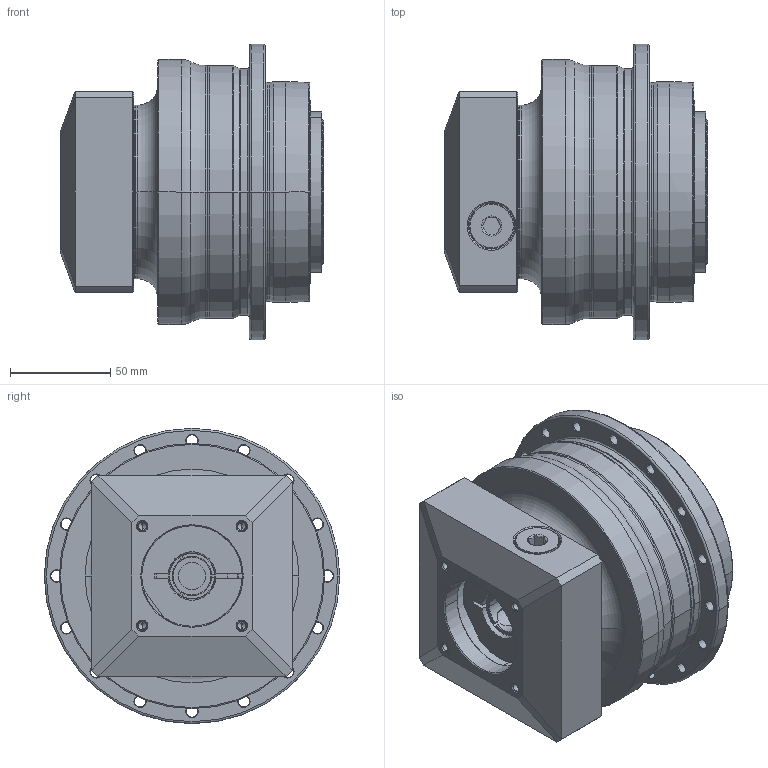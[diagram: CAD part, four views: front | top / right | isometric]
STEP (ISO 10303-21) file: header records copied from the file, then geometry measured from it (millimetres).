
FILE_DESCRIPTION((''),'2;1');
FILE_NAME('AH110_1ST_19-P0409410101_ASM','2016-08-01T',('d00435'),(''),'PRO/ENGINEER BY PARAMETRIC TECHNOLOGY CORPORATION, 2008410','PRO/ENGINEER BY PARAMETRIC TECHNOLOGY CORPORATION, 2008410','');
FILE_SCHEMA(('CONFIG_CONTROL_DESIGN'));
Length unit declared in the file: millimetre
Products named in the file (8): P0278400003; P0359400003; P1318400001; P0409410101; P0503400008; P0912400001; 21711416017; AH110_1ST_19-P0409410101_ASM
Assembly tree (7 placements, depth 2):
  AH110_1ST_19-P0409410101_ASM
    P0278400003
    P0359400003
    P1318400001
    P0409410101
    P0503400008
    P0912400001
    21711416017
Bounding box: 131 x 147 x 147 mm (x, y, z)
Volume: 1217299.8 mm3; surface area: 205019 mm2
Topology: 8 solids, 54 shells, 733 faces, 1717 edges, 1061 vertices
Faces by surface type: cylinder 320, cone 194, plane 143, torus 62, bspline 14
Entity records: 25559 total; most frequent: CARTESIAN_POINT 8240, DIRECTION 4007, ORIENTED_EDGE 3146, AXIS2_PLACEMENT_3D 1711, EDGE_CURVE 1663, VERTEX_POINT 1061, CIRCLE 967, EDGE_LOOP 892
